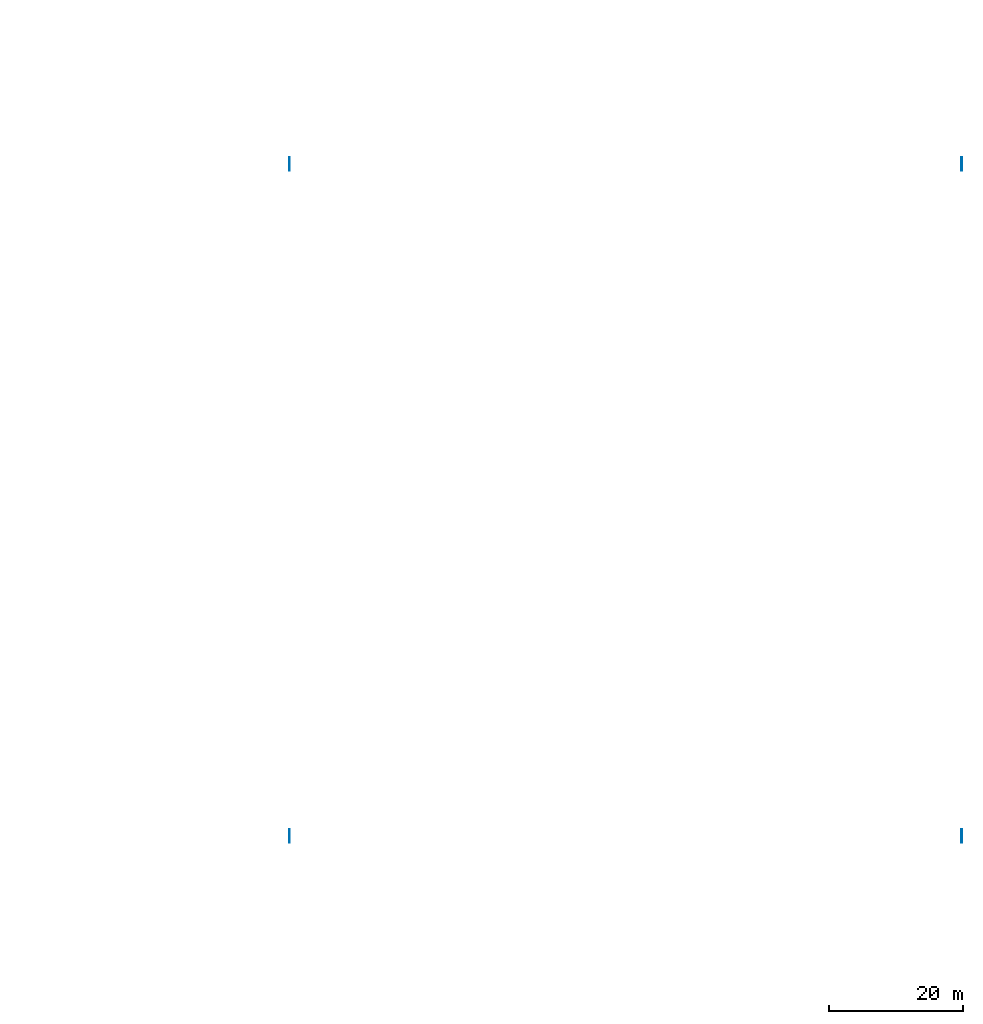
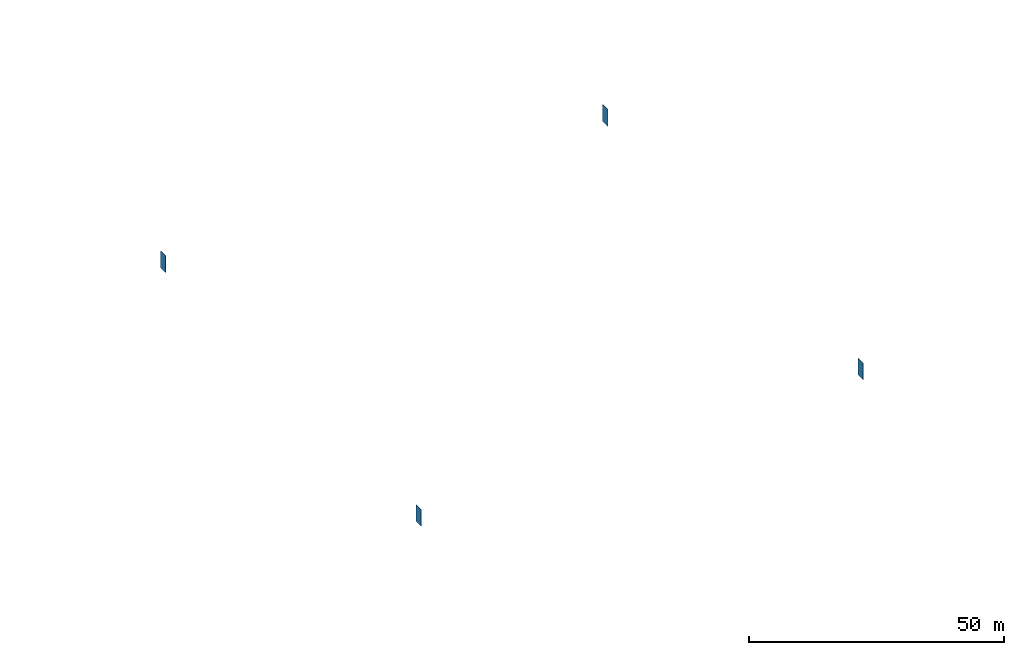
# One storey, part 162 of 164: 4 walls.
"""IFC2X3 building model written with IfcOpenShell, lengths in millimetres."""

from ifc_helpers import new_model, entity, si_unit, converted_unit, derived_unit, direction, frame, frame_2d, origin, place, context, subcontext, project, spatial, rectangle, extrude, material, layer, layer_set, layer_usage, type_object, element, save


model = new_model("IFC2X3")

# Units and contexts
model_context = context("Model", 3, precision=0.01, world=origin(), true_north=direction((6.12303176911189e-17, 1.0)))
body_context = subcontext(model_context, "Body", "Model", "MODEL_VIEW")
ifc_project = project(units=[si_unit("LENGTHUNIT", "METRE", prefix="MILLI"), si_unit("AREAUNIT", "SQUARE_METRE"), si_unit("VOLUMEUNIT", "CUBIC_METRE"), converted_unit("PLANEANGLEUNIT", "DEGREE", entity("IfcRatioMeasure", 0.0174532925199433), si_unit("PLANEANGLEUNIT", "RADIAN"), dimensions=[0, 0, 0, 0, 0, 0, 0]), si_unit("MASSUNIT", "GRAM", prefix="KILO"), derived_unit("MASSDENSITYUNIT", [(si_unit("MASSUNIT", "GRAM", prefix="KILO"), 1), (si_unit("LENGTHUNIT", "METRE"), -3)]), derived_unit("MOMENTOFINERTIAUNIT", [(si_unit("LENGTHUNIT", "METRE"), 4)]), si_unit("TIMEUNIT", "SECOND"), si_unit("FREQUENCYUNIT", "HERTZ"), si_unit("THERMODYNAMICTEMPERATUREUNIT", "DEGREE_CELSIUS"), derived_unit("THERMALTRANSMITTANCEUNIT", [(si_unit("MASSUNIT", "GRAM", prefix="KILO"), 1), (si_unit("THERMODYNAMICTEMPERATUREUNIT", "KELVIN"), -1), (si_unit("TIMEUNIT", "SECOND"), -3)]), derived_unit("VOLUMETRICFLOWRATEUNIT", [(si_unit("LENGTHUNIT", "METRE"), 3), (si_unit("TIMEUNIT", "SECOND"), -1)]), si_unit("ELECTRICCURRENTUNIT", "AMPERE"), si_unit("ELECTRICVOLTAGEUNIT", "VOLT"), si_unit("POWERUNIT", "WATT"), si_unit("FORCEUNIT", "NEWTON", prefix="KILO"), si_unit("ILLUMINANCEUNIT", "LUX"), si_unit("LUMINOUSFLUXUNIT", "LUMEN"), si_unit("LUMINOUSINTENSITYUNIT", "CANDELA"), derived_unit("USERDEFINED", [(si_unit("MASSUNIT", "GRAM", prefix="KILO"), -1), (si_unit("LENGTHUNIT", "METRE"), -2), (si_unit("TIMEUNIT", "SECOND"), 3), (si_unit("LUMINOUSFLUXUNIT", "LUMEN"), 1)]), derived_unit("LINEARVELOCITYUNIT", [(si_unit("LENGTHUNIT", "METRE"), 1), (si_unit("TIMEUNIT", "SECOND"), -1)]), si_unit("PRESSUREUNIT", "PASCAL"), derived_unit("USERDEFINED", [(si_unit("LENGTHUNIT", "METRE"), -2), (si_unit("MASSUNIT", "GRAM", prefix="KILO"), 1), (si_unit("TIMEUNIT", "SECOND"), -2)]), derived_unit("LINEARFORCEUNIT", [(si_unit("MASSUNIT", "GRAM", prefix="KILO"), 1), (si_unit("LENGTHUNIT", "METRE"), 1), (si_unit("TIMEUNIT", "SECOND"), -2), (si_unit("LENGTHUNIT", "METRE"), -1)]), derived_unit("PLANARFORCEUNIT", [(si_unit("MASSUNIT", "GRAM", prefix="KILO"), 1), (si_unit("LENGTHUNIT", "METRE"), 1), (si_unit("TIMEUNIT", "SECOND"), -2), (si_unit("LENGTHUNIT", "METRE"), -2)])], contexts=[model_context])

# Site, building, storey
site_placement = place(None, origin())
site = spatial("IfcSite", under=ifc_project, at=site_placement, Name="Default", CompositionType="ELEMENT")
building_placement = place(site_placement, origin())
building = spatial("IfcBuilding", under=site, at=building_placement, CompositionType="ELEMENT")
storey_placement = place(building_placement, origin())
storey = spatial("IfcBuildingStorey", under=building, at=storey_placement, Name="Level 1", CompositionType="ELEMENT", Elevation=0.0)

# Walls
ifc_material = material(Name="Default Wall")
ifc_layer = layer(ifc_material, 100.0)
ifc_layer_set = layer_set([ifc_layer], Name="Basic Wall:Generic - 100mm")
ifc_layer_usage_1 = layer_usage(ifc_layer_set, "AXIS2", "NEGATIVE", 50.0)
wall_type = type_object("IfcWallType", Name="Basic Wall:Generic - 100mm", PredefinedType="STANDARD", material=ifc_layer_set)
wall_1_placement = place(storey_placement, frame((1800050.0, 1601000.0, 0.0), z_axis=(0.0, 0.0, 1.0), x_axis=(0.0, -1.0, 0.0)))
element("IfcWallStandardCase", 1, at=wall_1_placement, inside=storey, type_object=wall_type, material=ifc_layer_usage_1, Name="Basic Wall:Generic - 100mm", ObjectType="Basic Wall:Generic - 100mm", context=body_context, shape_type="SweptSolid", body=[
    extrude(rectangle(XDim=1999.99999999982, YDim=100.000000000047, at=frame_2d((999.999999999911, 1.60582658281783e-12), x_axis=(-1.0, 0.0))), origin(), (0.0, 0.0, 1.0), 4000.0),
])
ifc_layer_usage_2 = layer_usage(ifc_layer_set, "AXIS2", "NEGATIVE", 50.0)
wall_2_placement = place(storey_placement, frame((1900050.0, 1601000.0, 0.0), z_axis=(0.0, 0.0, 1.0), x_axis=(0.0, -1.0, 0.0)))
element("IfcWallStandardCase", 2, at=wall_2_placement, inside=storey, type_object=wall_type, material=ifc_layer_usage_2, Name="Basic Wall:Generic - 100mm", ObjectType="Basic Wall:Generic - 100mm", context=body_context, shape_type="SweptSolid", body=[
    extrude(rectangle(XDim=1999.99999999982, YDim=100.000000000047, at=frame_2d((999.999999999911, 1.60582658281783e-12), x_axis=(-1.0, 0.0))), origin(), (0.0, 0.0, 1.0), 4000.0),
])
ifc_layer_usage_3 = layer_usage(ifc_layer_set, "AXIS2", "NEGATIVE", 50.0)
wall_3_placement = place(storey_placement, frame((1800050.0, 1701000.0, 0.0), z_axis=(0.0, 0.0, 1.0), x_axis=(0.0, -1.0, 0.0)))
element("IfcWallStandardCase", 3, at=wall_3_placement, inside=storey, type_object=wall_type, material=ifc_layer_usage_3, Name="Basic Wall:Generic - 100mm", ObjectType="Basic Wall:Generic - 100mm", context=body_context, shape_type="SweptSolid", body=[
    extrude(rectangle(XDim=1999.99999999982, YDim=100.000000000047, at=frame_2d((999.999999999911, 1.60582658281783e-12), x_axis=(-1.0, 0.0))), origin(), (0.0, 0.0, 1.0), 4000.0),
])
ifc_layer_usage_4 = layer_usage(ifc_layer_set, "AXIS2", "NEGATIVE", 50.0)
wall_4_placement = place(storey_placement, frame((1900050.0, 1701000.0, 0.0), z_axis=(0.0, 0.0, 1.0), x_axis=(0.0, -1.0, 0.0)))
element("IfcWallStandardCase", 4, at=wall_4_placement, inside=storey, type_object=wall_type, material=ifc_layer_usage_4, Name="Basic Wall:Generic - 100mm", ObjectType="Basic Wall:Generic - 100mm", context=body_context, shape_type="SweptSolid", body=[
    extrude(rectangle(XDim=1999.99999999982, YDim=100.000000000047, at=frame_2d((999.999999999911, 1.60582658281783e-12), x_axis=(-1.0, 0.0))), origin(), (0.0, 0.0, 1.0), 4000.0),
])

save(model, "model.ifc")
